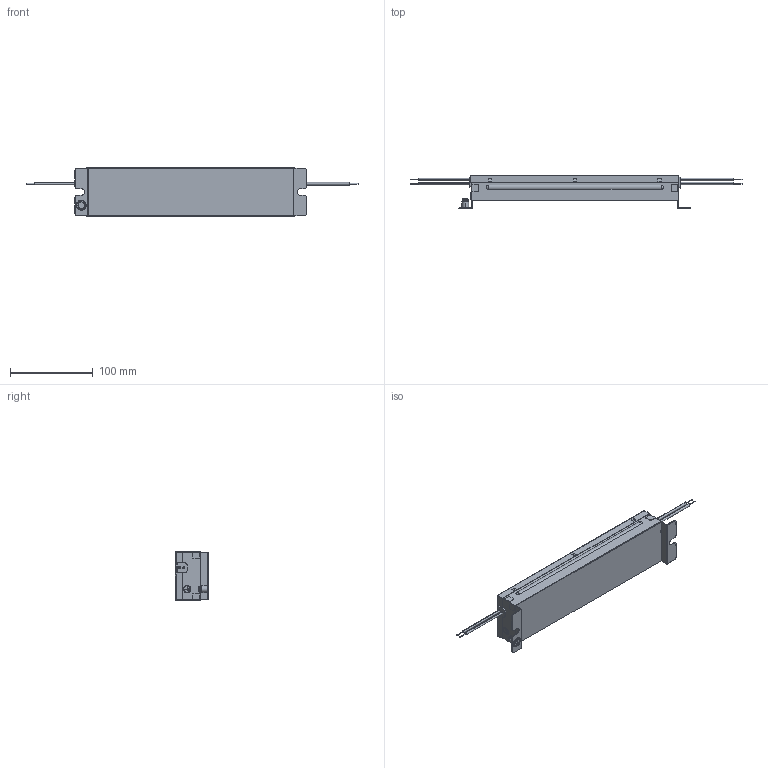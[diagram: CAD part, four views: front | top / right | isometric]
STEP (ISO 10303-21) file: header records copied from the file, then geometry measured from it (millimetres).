
FILE_DESCRIPTION((''),'2;1');
FILE_NAME('00_JPVI-150012FK-ALL_ASM','2023-02-01T10:32:01',('JIM.KUO'),(''),'CREO PARAMETRIC BY PTC INC, 2019352','CREO PARAMETRIC BY PTC INC, 2019352','');
FILE_SCHEMA(('CONFIG_CONTROL_DESIGN','GEOMETRIC_VALIDATION_PROPERTIES_MIM'));
Length unit declared in the file: millimetre
Products named in the file (8): BASE_JPVI-150012FK; M4-BOSS; SCREW_PAN-M4-8L-NI; 0_BASE_JPVI-150012FK-ASSY_ASM; COVER_JPVI-150012FK; INPUT-WIRE_HVSF_0_75MM_B_W; OUTPUT-WIRE_1015_16AWG_R_B; 00_JPVI-150012FK-ALL_ASM
Assembly tree (7 placements, depth 3):
  00_JPVI-150012FK-ALL_ASM
    0_BASE_JPVI-150012FK-ASSY_ASM
      BASE_JPVI-150012FK
      M4-BOSS
      SCREW_PAN-M4-8L-NI
    COVER_JPVI-150012FK
    INPUT-WIRE_HVSF_0_75MM_B_W
    OUTPUT-WIRE_1015_16AWG_R_B
Bounding box: 400.95 x 40.5 x 60 mm (x, y, z)
Volume: 32792.3 mm3; surface area: 122223.1 mm2
Topology: 6 solids, 6 shells, 822 faces, 2110 edges, 1314 vertices
Faces by surface type: plane 542, cylinder 214, bspline 43, sphere 15, torus 4, cone 4
Entity records: 35491 total; most frequent: CARTESIAN_POINT 6190, ORIENTED_EDGE 4204, DIRECTION 4024, PRESENTATION_STYLE_ASSIGNMENT 2214, STYLED_ITEM 2214, EDGE_CURVE 2102, CURVE_STYLE 1635, VECTOR 1514
